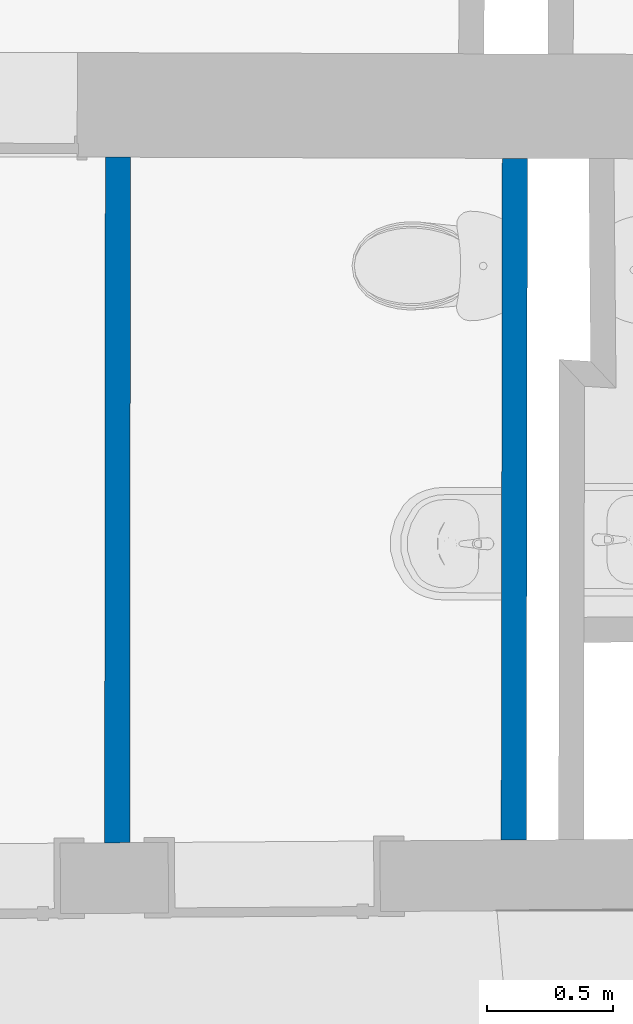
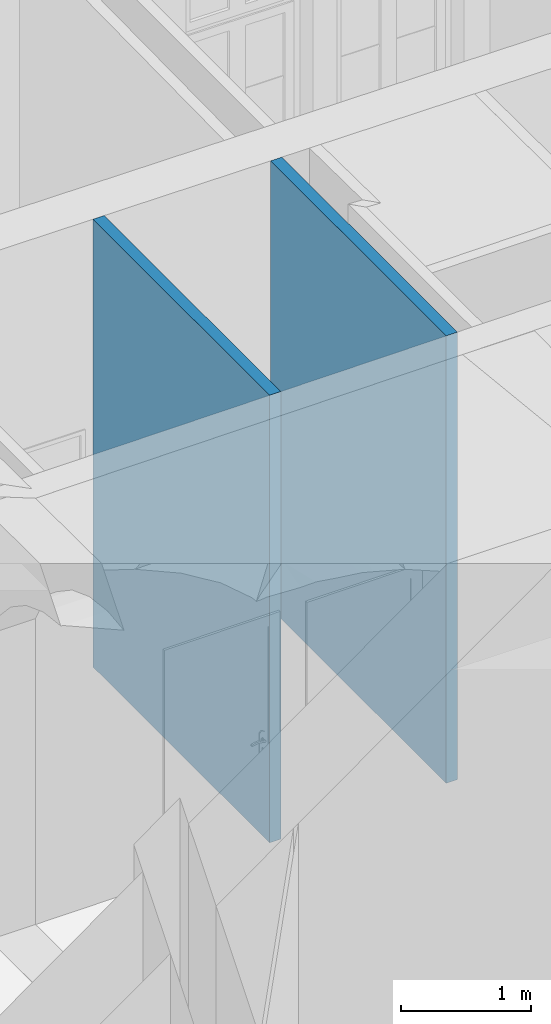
# One storey, part 28 of 90: 2 walls.
"""IFC2X3 building model written with IfcOpenShell, lengths in metres."""

from ifc_helpers import new_model, entity, si_unit, converted_unit, derived_unit, money_unit, direction, frame, origin_with_axes, place, context, subcontext, project, spatial, polyline, outline, extrude, material, layer, layer_set, layer_usage, type_object, element, save


model = new_model("IFC2X3")

# Units and contexts
model_context = context("Model", 3, precision=1e-05, world=origin_with_axes(), true_north=direction((0.0, 1.0)))
body_context = subcontext(model_context, "Body", "Model", "MODEL_VIEW")
ifc_project = project(units=[si_unit("LENGTHUNIT", "METRE"), si_unit("AREAUNIT", "SQUARE_METRE"), si_unit("VOLUMEUNIT", "CUBIC_METRE"), converted_unit("PLANEANGLEUNIT", "DEGREE", entity("IfcPlaneAngleMeasure", 0.0174532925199), si_unit("PLANEANGLEUNIT", "RADIAN"), dimensions=[0, 0, 0, 0, 0, 0, 0]), money_unit("EUR"), converted_unit("TIMEUNIT", "Year", entity("IfcTimeMeasure", 31556926.0), si_unit("TIMEUNIT", "SECOND"), dimensions=[0, 0, 1, 0, 0, 0, 0]), si_unit("MASSUNIT", "GRAM", prefix="KILO"), si_unit("THERMODYNAMICTEMPERATUREUNIT", "DEGREE_CELSIUS"), si_unit("LUMINOUSINTENSITYUNIT", "LUMEN"), si_unit("ENERGYUNIT", "JOULE", prefix="MEGA"), derived_unit("THERMALCONDUCTANCEUNIT", [(si_unit("POWERUNIT", "WATT"), 1), (si_unit("LENGTHUNIT", "METRE"), -1), (si_unit("THERMODYNAMICTEMPERATUREUNIT", "KELVIN"), -1)]), derived_unit("SPECIFICHEATCAPACITYUNIT", [(si_unit("ENERGYUNIT", "JOULE"), 1), (si_unit("MASSUNIT", "GRAM", prefix="KILO"), -1), (si_unit("THERMODYNAMICTEMPERATUREUNIT", "KELVIN"), -1)]), derived_unit("MASSDENSITYUNIT", [(si_unit("MASSUNIT", "GRAM", prefix="KILO"), 1), (si_unit("VOLUMEUNIT", "CUBIC_METRE"), -1)])], contexts=[model_context])

# Site, building, storey
site_placement = place(None, origin_with_axes())
site = spatial("IfcSite", under=ifc_project, at=site_placement, Name="Gelände", CompositionType="ELEMENT")
building_placement = place(site_placement, origin_with_axes())
building = spatial("IfcBuilding", under=site, at=building_placement, Name="Gebäude", CompositionType="ELEMENT")
storey_placement = place(building_placement, frame((0.0, 0.0, 3.7), z_axis=(0.0, 0.0, 1.0), x_axis=(1.0, 0.0, 0.0)))
storey = spatial("IfcBuildingStorey", under=building, at=storey_placement, Name="1.OBERGESCHOSS", CompositionType="ELEMENT", Elevation=3.7)

# Walls
ifc_material = material(Name="43_Gipskarton")
ifc_layer = layer(ifc_material, 0.1, ventilated="UNKNOWN")
ifc_layer_set = layer_set([ifc_layer], Name="43_Gipskarton 0.1")
ifc_layer_usage_1 = layer_usage(ifc_layer_set, "AXIS2", "NEGATIVE", 0.1)
wall_type = type_object("IfcWallType", Name="43_Gipskarton 100", PredefinedType="ELEMENTEDWALL")
wall_1_placement = place(storey_placement, frame((16.7647882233, 22.1677772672, -0.1), z_axis=(0.0, 0.0, 1.0), x_axis=(-0.00162101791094, -0.99999868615, 0.0)))
element("IfcWallStandardCase", 1, at=wall_1_placement, inside=storey, type_object=wall_type, material=ifc_layer_usage_1, Name="Wand-040", ObjectType="ELEMENTEDWALL", context=body_context, shape_type="SweptSolid", body=[
    extrude(outline(polyline([(0.0, 0.0), (2.70507553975, 0.0), (2.7042241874, 0.1), (0.000145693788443, 0.1), (0.0, 0.0)])), origin_with_axes(), (0.0, 0.0, 1.0), 4.2),
])
ifc_layer_usage_2 = layer_usage(ifc_layer_set, "AXIS2", "NEGATIVE", 0.0)
wall_2_placement = place(storey_placement, frame((15.1865781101, 19.1718511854, -0.1), z_axis=(0.0, 0.0, 1.0), x_axis=(0.00106979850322, 0.999999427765, 0.0)))
element("IfcWallStandardCase", 2, at=wall_2_placement, inside=storey, type_object=wall_type, material=ifc_layer_usage_2, Name="Wand-040", ObjectType="ELEMENTEDWALL", context=body_context, shape_type="SweptSolid", body=[
    extrude(outline(polyline([(0.280805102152, -0.1), (3.0005747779, -0.1), (3.00077559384, 0.0), (0.280008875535, 0.0), (0.280805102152, -0.1)])), origin_with_axes(), (0.0, 0.0, 1.0), 4.2),
])

save(model, "model.ifc")
